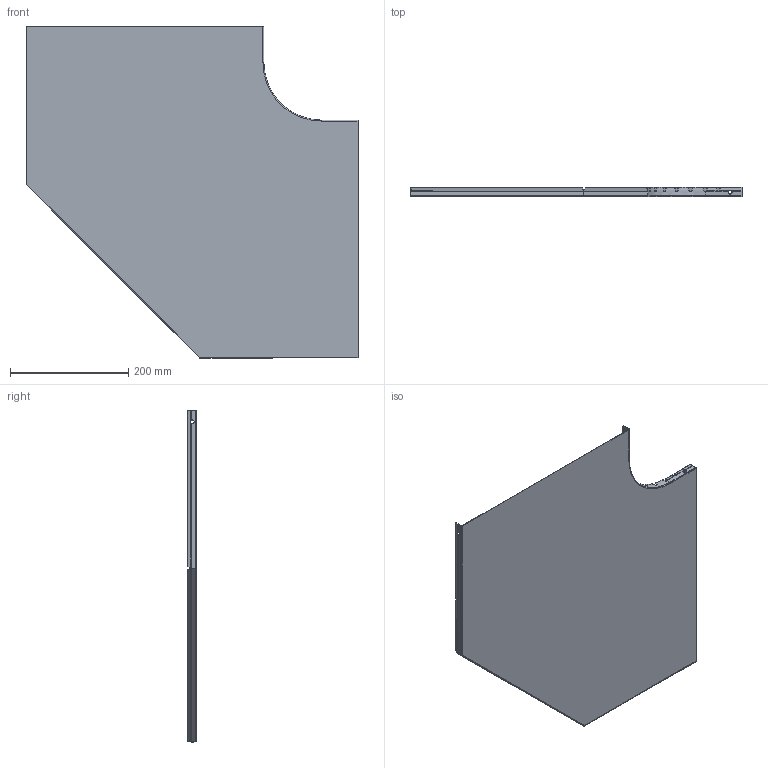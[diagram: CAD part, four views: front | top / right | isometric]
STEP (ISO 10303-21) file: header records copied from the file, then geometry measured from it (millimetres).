
FILE_DESCRIPTION (( 'STEP AP203' ), '1' );
FILE_NAME ('ERE_TAPA CP 400 GC.step', '2023-07-28T14:55:31', ( '' ), ( '' ), 'SwSTEP 2.0', 'SolidWorks 2022', '' );
FILE_SCHEMA (( 'CONFIG_CONTROL_DESIGN' ));
Length unit declared in the file: millimetre
Products named in the file (1): ERE_TAPA CP 400 GC
Bounding box: 562.5 x 15.1 x 562.5 mm (x, y, z)
Volume: 186447.6 mm3; surface area: 534350 mm2
Topology: 1 solids, 1 shells, 220 faces, 542 edges, 316 vertices
Faces by surface type: plane 98, cylinder 66, bspline 54, torus 2
Entity records: 10713 total; most frequent: CARTESIAN_POINT 5957, ORIENTED_EDGE 1084, DIRECTION 796, EDGE_CURVE 542, VERTEX_POINT 316, AXIS2_PLACEMENT_3D 281, LINE 234, VECTOR 234
